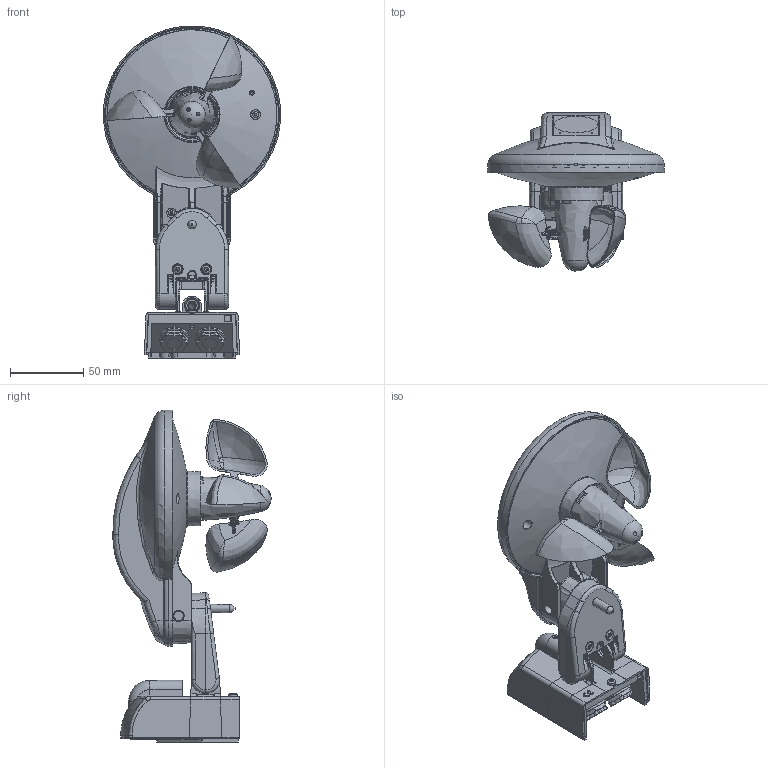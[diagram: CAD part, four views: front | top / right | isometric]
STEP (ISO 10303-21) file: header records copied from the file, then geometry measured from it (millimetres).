
FILE_DESCRIPTION(/* description */ (''),/* implementation_level */ '2;1');
FILE_NAME(/* name */ 'model11.stp',/* time_stamp */ '2017-03-03T08:27:03+01:00',/* author */ (''),/* organization */ (''),/* preprocessor_version */ 'ST-DEVELOPER v14',/* originating_system */ 'SIEMENS PLM Software NX 8.0',/* authorisation */ '');
FILE_SCHEMA (('AUTOMOTIVE_DESIGN { 1 0 10303 214 3 1 1 1 }'));
Length unit declared in the file: millimetre
Products named in the file (1): model11
Bounding box: 121.05 x 108.2 x 226.82 mm (x, y, z)
Surface area: 107266.4 mm2 (no closed solid volume)
Topology: 0 solids, 311 shells, 1399 faces, 5350 edges, 4154 vertices
Faces by surface type: cylinder 424, bspline 361, plane 336, cone 164, torus 56, sphere 48, extrusion 6, revolution 4
Full cylindrical faces by diameter (mm): 0.5 x2, 1 x1, 1.6 x1, 1.8 x1, 2.5 x3, 2.65 x1, 3 x1, 4 x3, 5.6 x3, 6.5 x4, 9.93 x2
Entity records: 74401 total; most frequent: CARTESIAN_POINT 34838, ORIENTED_EDGE 7483, DIRECTION 5865, EDGE_CURVE 5157, VERTEX_POINT 4103, B_SPLINE_CURVE_WITH_KNOTS 2573, AXIS2_PLACEMENT_3D 2357, EDGE_LOOP 1528
